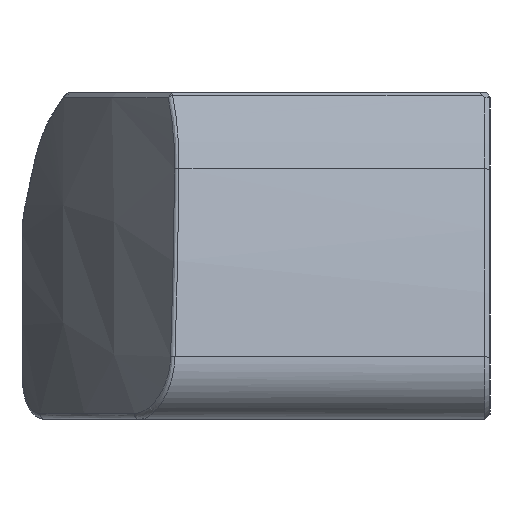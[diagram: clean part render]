
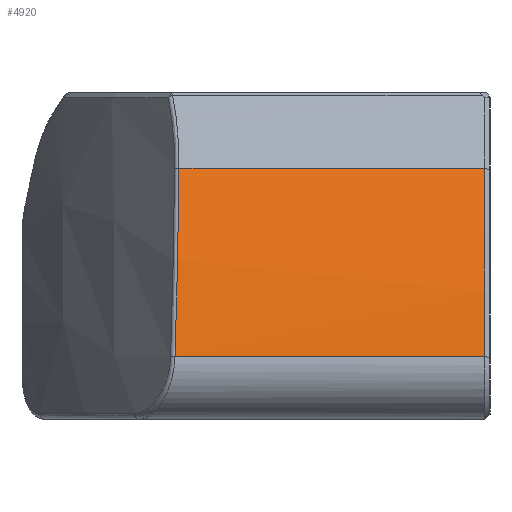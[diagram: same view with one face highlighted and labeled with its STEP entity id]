
A CAD part, left-side view. The second image highlights one B-rep face of the part: STEP entity #4920.
In plain terms, the highlighted cylindrical face has radius 73 mm (diameter 146 mm), a partial arc.
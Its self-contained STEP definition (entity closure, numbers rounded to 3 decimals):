
#369 = CARTESIAN_POINT ( 'NONE',  ( 0., -5., 0. ) ) ;
#370 = DIRECTION ( 'NONE',  ( 0., 1., 0. ) ) ;
#371 = DIRECTION ( 'NONE',  ( 0., 0., 1. ) ) ;
#1583 = VERTEX_POINT ( 'NONE', #5409 ) ;
#1601 = ORIENTED_EDGE ( 'NONE', *, *, #4829, .T. ) ;
#1602 = ORIENTED_EDGE ( 'NONE', *, *, #4832, .T. ) ;
#1603 = ORIENTED_EDGE ( 'NONE', *, *, #4830, .T. ) ;
#1604 = ORIENTED_EDGE ( 'NONE', *, *, #4831, .T. ) ;
#2265 = FACE_OUTER_BOUND ( 'NONE', #2635, .T. ) ;
#2267 = AXIS2_PLACEMENT_3D ( 'NONE', #369, #370, #371 ) ;
#2271 = CYLINDRICAL_SURFACE ( 'NONE', #2267, 73. ) ;
#2571 = VERTEX_POINT ( 'NONE', #6696 ) ;
#2611 = VERTEX_POINT ( 'NONE', #6735 ) ;
#2612 = VERTEX_POINT ( 'NONE', #6736 ) ;
#2635 = EDGE_LOOP ( 'NONE', ( #1604, #1602, #1603, #1601 ) ) ;
#2867 = AXIS2_PLACEMENT_3D ( 'NONE', #6923, #6930, #6931 ) ;
#2877 = VECTOR ( 'NONE', #6935, 1000. ) ;
#2878 = VECTOR ( 'NONE', #6938, 1000. ) ;
#4829 = EDGE_CURVE ( 'NONE', #1583, #2612, #5123, .T. ) ;
#4830 = EDGE_CURVE ( 'NONE', #2571, #1583, #6933, .T. ) ;
#4831 = EDGE_CURVE ( 'NONE', #2612, #2611, #6936, .T. ) ;
#4832 = EDGE_CURVE ( 'NONE', #2611, #2571, #6524, .T. ) ;
#4920 = ADVANCED_FACE ( 'NONE', ( #2265 ), #2271, .T. ) ;
#5123 = CIRCLE ( 'NONE', #2867, 73. ) ;
#5409 = CARTESIAN_POINT ( 'NONE',  ( -71.482, -4.6, 14.812 ) ) ;
#6524 = B_SPLINE_CURVE_WITH_KNOTS ( 'NONE', 3,
 ( #6932, #6939, #6940, #6941, #6942, #6943 ),
 .UNSPECIFIED., .F., .F.,
 ( 4, 2, 4 ),
 ( 0., 0.008, 0.015 ),
 .UNSPECIFIED. ) ;
#6696 = CARTESIAN_POINT ( 'NONE',  ( -71.482, 19.104, 14.812 ) ) ;
#6735 = CARTESIAN_POINT ( 'NONE',  ( -66.893, 18.803, 29.229 ) ) ;
#6736 = CARTESIAN_POINT ( 'NONE',  ( -66.893, -4.6, 29.229 ) ) ;
#6923 = CARTESIAN_POINT ( 'NONE',  ( 0., -4.6, 0. ) ) ;
#6930 = DIRECTION ( 'NONE',  ( 0., 1., 0. ) ) ;
#6931 = DIRECTION ( 'NONE',  ( 0., 0., 1. ) ) ;
#6932 = CARTESIAN_POINT ( 'NONE',  ( -66.893, 18.803, 29.229 ) ) ;
#6933 = LINE ( 'NONE', #6934, #2877 ) ;
#6934 = CARTESIAN_POINT ( 'NONE',  ( -71.482, -5., 14.812 ) ) ;
#6935 = DIRECTION ( 'NONE',  ( 0., -1., 0. ) ) ;
#6936 = LINE ( 'NONE', #6937, #2878 ) ;
#6937 = CARTESIAN_POINT ( 'NONE',  ( -66.893, -5., 29.229 ) ) ;
#6938 = DIRECTION ( 'NONE',  ( 0., 1., 0. ) ) ;
#6939 = CARTESIAN_POINT ( 'NONE',  ( -67.908, 18.824, 26.906 ) ) ;
#6940 = CARTESIAN_POINT ( 'NONE',  ( -68.797, 18.86, 24.542 ) ) ;
#6941 = CARTESIAN_POINT ( 'NONE',  ( -70.327, 18.961, 19.736 ) ) ;
#6942 = CARTESIAN_POINT ( 'NONE',  ( -70.967, 19.025, 17.294 ) ) ;
#6943 = CARTESIAN_POINT ( 'NONE',  ( -71.482, 19.104, 14.812 ) ) ;
